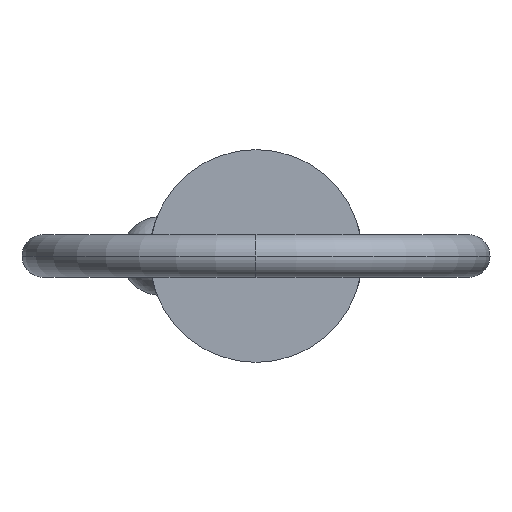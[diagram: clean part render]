
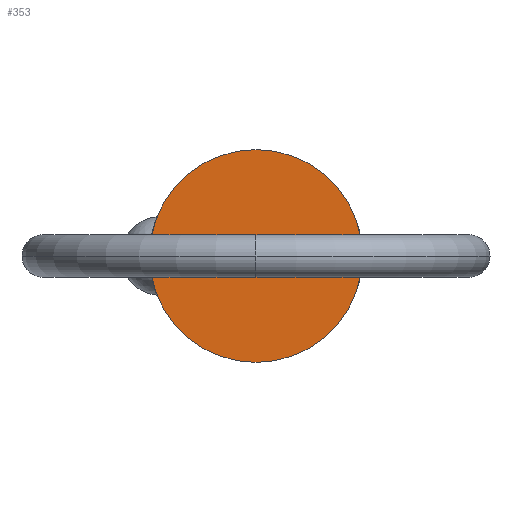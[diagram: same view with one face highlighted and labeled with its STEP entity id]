
A CAD part, left-side view. The second image highlights one B-rep face of the part: STEP entity #353.
In plain terms, the highlighted planar face has unit normal (-1, 0, 0).
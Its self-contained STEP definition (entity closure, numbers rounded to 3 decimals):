
#22 = DIRECTION ( 'NONE',  ( 0., 0., -1. ) ) ;
#90 = AXIS2_PLACEMENT_3D ( 'NONE', #148, #661, #22 ) ;
#148 = CARTESIAN_POINT ( 'NONE',  ( 0., 0., 0. ) ) ;
#201 = EDGE_LOOP ( 'NONE', ( #478, #623 ) ) ;
#202 = CARTESIAN_POINT ( 'NONE',  ( 0., 0., 7.94 ) ) ;
#288 = AXIS2_PLACEMENT_3D ( 'NONE', #779, #682, #893 ) ;
#298 = EDGE_CURVE ( 'NONE', #756, #823, #437, .T. ) ;
#353 = ADVANCED_FACE ( 'NONE', ( #637 ), #497, .T. ) ;
#382 = CARTESIAN_POINT ( 'NONE',  ( 0., 0., -7.94 ) ) ;
#437 = CIRCLE ( 'NONE', #846, 7.94 ) ;
#439 = EDGE_CURVE ( 'NONE', #823, #756, #483, .T. ) ;
#440 = CARTESIAN_POINT ( 'NONE',  ( 0., 0., 0. ) ) ;
#478 = ORIENTED_EDGE ( 'NONE', *, *, #439, .F. ) ;
#483 = CIRCLE ( 'NONE', #90, 7.94 ) ;
#497 = PLANE ( 'NONE',  #288 ) ;
#563 = DIRECTION ( 'NONE',  ( 1., 0., 0. ) ) ;
#623 = ORIENTED_EDGE ( 'NONE', *, *, #298, .F. ) ;
#637 = FACE_OUTER_BOUND ( 'NONE', #201, .T. ) ;
#661 = DIRECTION ( 'NONE',  ( 1., 0., 0. ) ) ;
#682 = DIRECTION ( 'NONE',  ( -1., 0., 0. ) ) ;
#756 = VERTEX_POINT ( 'NONE', #202 ) ;
#776 = DIRECTION ( 'NONE',  ( 0., 0., -1. ) ) ;
#779 = CARTESIAN_POINT ( 'NONE',  ( 0., 0., 0. ) ) ;
#823 = VERTEX_POINT ( 'NONE', #382 ) ;
#846 = AXIS2_PLACEMENT_3D ( 'NONE', #440, #563, #776 ) ;
#893 = DIRECTION ( 'NONE',  ( 0., 0., 1. ) ) ;
